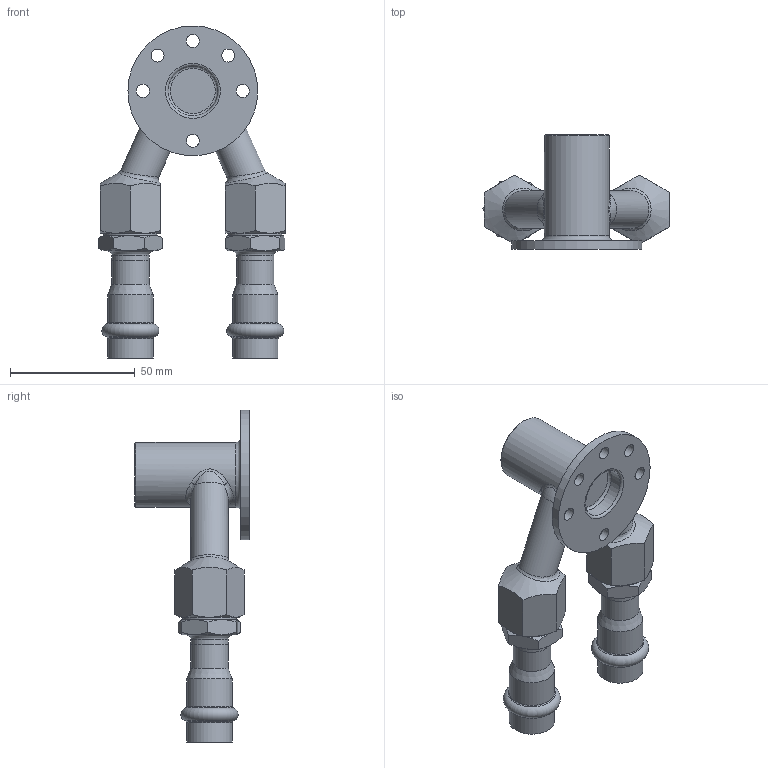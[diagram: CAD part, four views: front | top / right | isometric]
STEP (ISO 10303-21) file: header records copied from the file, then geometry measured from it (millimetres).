
FILE_DESCRIPTION((''),'2;1');
FILE_NAME('G:\Nirosan-Schmiedefeld\Technics\CAD\001 Serie 9.000\69478GZ\69478GZ151215H(1).stp','2019-01-02T12:40:00',('herberg'),(''),'Autodesk Inventor 2009','Autodesk Inventor 2009','');
FILE_SCHEMA(('AUTOMOTIVE_DESIGN { 1 0 10303 214 1 1 1 1 }'));
Length unit declared in the file: millimetre
Products named in the file (5): 69478GZ151215H(1); 69478igz12h(0); 69243G1512H(3); 69HM15P(0); AG1512(1)
Assembly tree (5 placements, depth 3):
  69478GZ151215H(1)
    69478igz12h(0)
    69243G1512H(3)  x2
      69HM15P(0)
      AG1512(1)
Bounding box: 74.69 x 46 x 133 mm (x, y, z)
Volume: 48844.1 mm3; surface area: 37080.1 mm2
Topology: 5 solids, 5 shells, 162 faces, 368 edges, 223 vertices
Faces by surface type: cone 52, plane 43, bspline 35, cylinder 22, torus 10
Full cylindrical faces by diameter (mm): 11 x2, 12 x2, 15 x6, 15.15 x4, 18.15 x4, 18.631 x1, 20 x1, 26 x1, 52 x1
Entity records: 6075 total; most frequent: CARTESIAN_POINT 3843, ORIENTED_EDGE 412, DIRECTION 400, EDGE_CURVE 206, AXIS2_PLACEMENT_3D 191, EDGE_LOOP 190, VERTEX_POINT 152, FACE_OUTER_BOUND 115
